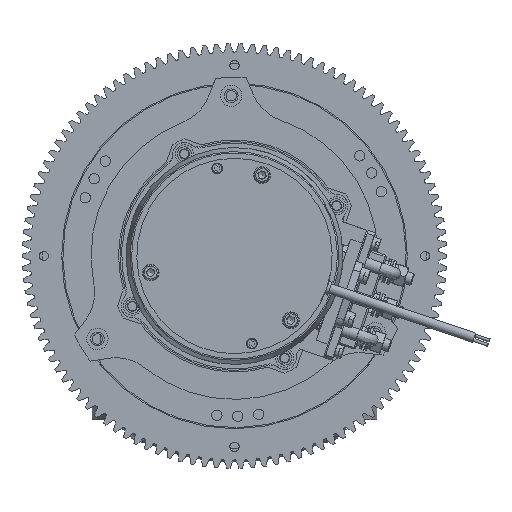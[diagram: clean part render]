
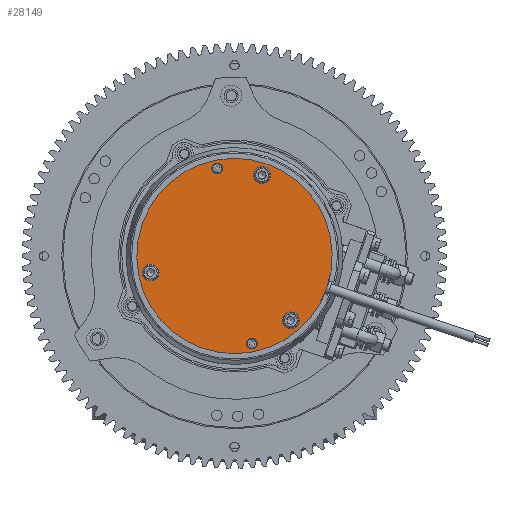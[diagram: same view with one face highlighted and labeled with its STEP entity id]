
A CAD part, front view. The second image highlights one B-rep face of the part: STEP entity #28149.
In plain terms, the highlighted planar face has unit normal (0, -1, 0).
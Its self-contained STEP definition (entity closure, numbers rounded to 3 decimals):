
#3917 = CARTESIAN_POINT ( 'NONE',  ( -12.413, -550.25, 40.185 ) ) ;
#4907 = VERTEX_POINT ( 'NONE', #3917 ) ;
#6463 = DIRECTION ( 'NONE',  ( 0.194, 0., -0.981 ) ) ;
#7290 = EDGE_CURVE ( 'NONE', #86327, #86327, #27638, .T. ) ;
#8183 = CARTESIAN_POINT ( 'NONE',  ( 0., -550.25, -22.6 ) ) ;
#11586 = AXIS2_PLACEMENT_3D ( 'NONE', #76494, #29593, #6463 ) ;
#13396 = CARTESIAN_POINT ( 'NONE',  ( -54.937, -550.25, -33.461 ) ) ;
#14680 = EDGE_LOOP ( 'NONE', ( #54954 ) ) ;
#16252 = FACE_BOUND ( 'NONE', #50321, .T. ) ;
#19128 = CIRCLE ( 'NONE', #75444, 5.5 ) ;
#19811 = EDGE_CURVE ( 'NONE', #34882, #34882, #94681, .T. ) ;
#22271 = DIRECTION ( 'NONE',  ( 0.194, 0., -0.981 ) ) ;
#22775 = FACE_BOUND ( 'NONE', #32919, .T. ) ;
#22922 = DIRECTION ( 'NONE',  ( 0., 1., 0. ) ) ;
#24006 = DIRECTION ( 'NONE',  ( 0., -1., 0. ) ) ;
#26490 = CARTESIAN_POINT ( 'NONE',  ( 35.808, -550.25, -59.35 ) ) ;
#26962 = CARTESIAN_POINT ( 'NONE',  ( -10.91, -550.25, 32.582 ) ) ;
#27638 = CIRCLE ( 'NONE', #11586, 2.25 ) ;
#28149 = ADVANCED_FACE ( 'NONE', ( #38889, #92784, #22775, #16252, #39361, #61611 ), #60579, .F. ) ;
#29593 = DIRECTION ( 'NONE',  ( 0., -1., 0. ) ) ;
#30485 = CARTESIAN_POINT ( 'NONE',  ( 0., -550.25, -22.6 ) ) ;
#32754 = CARTESIAN_POINT ( 'NONE',  ( -56.003, -550.25, -28.066 ) ) ;
#32919 = EDGE_LOOP ( 'NONE', ( #94539 ) ) ;
#34576 = EDGE_CURVE ( 'NONE', #78690, #78690, #19128, .T. ) ;
#34835 = CIRCLE ( 'NONE', #88027, 64. ) ;
#34882 = VERTEX_POINT ( 'NONE', #65649 ) ;
#35561 = DIRECTION ( 'NONE',  ( -0.194, 0., 0.981 ) ) ;
#38531 = AXIS2_PLACEMENT_3D ( 'NONE', #52241, #45165, #75447 ) ;
#38889 = FACE_OUTER_BOUND ( 'NONE', #91410, .T. ) ;
#39361 = FACE_BOUND ( 'NONE', #78259, .T. ) ;
#41596 = VERTEX_POINT ( 'NONE', #26962 ) ;
#41702 = CIRCLE ( 'NONE', #38531, 2.25 ) ;
#45165 = DIRECTION ( 'NONE',  ( 0., -1., 0. ) ) ;
#45834 = AXIS2_PLACEMENT_3D ( 'NONE', #8183, #45928, #22271 ) ;
#45928 = DIRECTION ( 'NONE',  ( 0., 1., 0. ) ) ;
#48200 = CARTESIAN_POINT ( 'NONE',  ( 36.874, -550.25, -64.746 ) ) ;
#48382 = AXIS2_PLACEMENT_3D ( 'NONE', #48200, #24006, #70434 ) ;
#50303 = DIRECTION ( 'NONE',  ( -0.194, 0., 0.981 ) ) ;
#50321 = EDGE_LOOP ( 'NONE', ( #59811 ) ) ;
#52241 = CARTESIAN_POINT ( 'NONE',  ( -11.346, -550.25, 34.789 ) ) ;
#52296 = ORIENTED_EDGE ( 'NONE', *, *, #19811, .F. ) ;
#54954 = ORIENTED_EDGE ( 'NONE', *, *, #93566, .F. ) ;
#57876 = CARTESIAN_POINT ( 'NONE',  ( 18.062, -550.25, 30.407 ) ) ;
#59230 = AXIS2_PLACEMENT_3D ( 'NONE', #57876, #88597, #50303 ) ;
#59256 = DIRECTION ( 'NONE',  ( -0.194, 0., 0.981 ) ) ;
#59811 = ORIENTED_EDGE ( 'NONE', *, *, #34576, .F. ) ;
#60579 = PLANE ( 'NONE',  #45834 ) ;
#61611 = FACE_BOUND ( 'NONE', #14680, .T. ) ;
#65517 = EDGE_LOOP ( 'NONE', ( #92380 ) ) ;
#65649 = CARTESIAN_POINT ( 'NONE',  ( 16.995, -550.25, 35.803 ) ) ;
#67986 = EDGE_CURVE ( 'NONE', #4907, #4907, #34835, .T. ) ;
#70434 = DIRECTION ( 'NONE',  ( -0.194, 0., 0.981 ) ) ;
#72376 = ORIENTED_EDGE ( 'NONE', *, *, #67986, .F. ) ;
#72570 = CIRCLE ( 'NONE', #48382, 5.5 ) ;
#75444 = AXIS2_PLACEMENT_3D ( 'NONE', #13396, #97499, #35561 ) ;
#75447 = DIRECTION ( 'NONE',  ( 0.194, 0., -0.981 ) ) ;
#76494 = CARTESIAN_POINT ( 'NONE',  ( 11.346, -550.25, -79.989 ) ) ;
#78259 = EDGE_LOOP ( 'NONE', ( #52296 ) ) ;
#78690 = VERTEX_POINT ( 'NONE', #32754 ) ;
#86327 = VERTEX_POINT ( 'NONE', #94365 ) ;
#88027 = AXIS2_PLACEMENT_3D ( 'NONE', #30485, #22922, #59256 ) ;
#88597 = DIRECTION ( 'NONE',  ( 0., -1., 0. ) ) ;
#90935 = EDGE_CURVE ( 'NONE', #41596, #41596, #41702, .T. ) ;
#91410 = EDGE_LOOP ( 'NONE', ( #72376 ) ) ;
#92380 = ORIENTED_EDGE ( 'NONE', *, *, #90935, .F. ) ;
#92784 = FACE_BOUND ( 'NONE', #65517, .T. ) ;
#93566 = EDGE_CURVE ( 'NONE', #95539, #95539, #72570, .T. ) ;
#94365 = CARTESIAN_POINT ( 'NONE',  ( 11.783, -550.25, -82.196 ) ) ;
#94539 = ORIENTED_EDGE ( 'NONE', *, *, #7290, .F. ) ;
#94681 = CIRCLE ( 'NONE', #59230, 5.5 ) ;
#95539 = VERTEX_POINT ( 'NONE', #26490 ) ;
#97499 = DIRECTION ( 'NONE',  ( 0., -1., 0. ) ) ;
